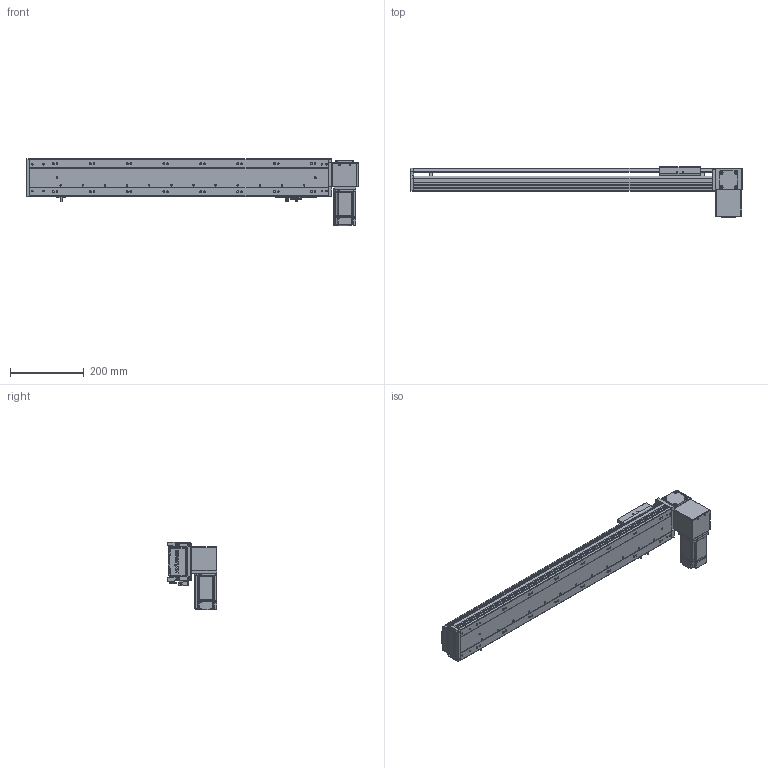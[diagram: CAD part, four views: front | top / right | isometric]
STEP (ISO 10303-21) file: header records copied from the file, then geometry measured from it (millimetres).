
FILE_DESCRIPTION (( 'STEP AP203' ), '1' );
FILE_NAME ('RY100-T-300-DL.SLDASM_600.step', '2024-04-24T01:10:56', ( '盈信电脑' ), ( '东莞市道滘镇水果街19号' ), 'SwSTEP 2.0', 'SolidWorks 2016', '' );
FILE_SCHEMA (( 'CONFIG_CONTROL_DESIGN' ));
Length unit declared in the file: millimetre
Products named in the file (16): RY100-T肮祭謫臏賑輸; RY100-T翋肮祭謫裔啣2; 1; RY100-T左右折电机安装板; 覜茼ん672; 滅袉蝶18-10; RY100綴裔啣; RY100-T-300-RK倰第奻裔_600; RY100俋离覜茼え; RY80-T肮祭謫狟殏俋欶; RY100-T肮祭謫翋盓傅釱; RY100-T翋肮祭謫裔啣; RY100-T-300-DL.SLDASM_600; RY100-T翋肮祭謫粣; RY100-T粣創揤踡裔; RY100-T-300-RK倰第菁釱_600
Assembly tree (18 placements, depth 2):
  RY100-T-300-DL.SLDASM_600
    RY100-T-300-RK倰第菁釱_600
    RY100-T-300-RK倰第奻裔_600
    RY100-T肮祭謫臏賑輸
    RY100綴裔啣
    覜茼ん672  x3
    RY100俋离覜茼え
    RY100-T翋肮祭謫粣
    RY100-T肮祭謫翋盓傅釱
    滅袉蝶18-10  x2
    RY100-T翋肮祭謫裔啣
    1
    RY100-T左右折电机安装板
    RY100-T粣創揤踡裔
    RY100-T翋肮祭謫裔啣2
    RY80-T肮祭謫狟殏俋欶
Bounding box: 900 x 135.5 x 182.5 mm (x, y, z)
Volume: 2001274.8 mm3; surface area: 802743.3 mm2
Topology: 18 solids, 18 shells, 2235 faces, 6196 edges, 4022 vertices
Faces by surface type: plane 1215, cylinder 801, cone 141, bspline 78
Entity records: 72039 total; most frequent: CARTESIAN_POINT 17412, ORIENTED_EDGE 11224, DIRECTION 10696, EDGE_CURVE 5612, VERTEX_POINT 3690, VECTOR 3626, LINE 3626, AXIS2_PLACEMENT_3D 3535
